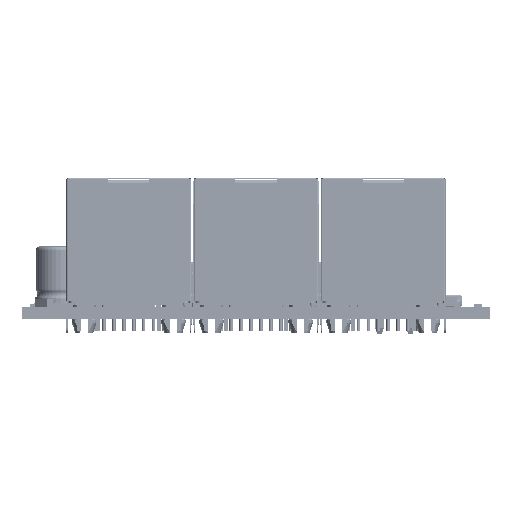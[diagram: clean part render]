
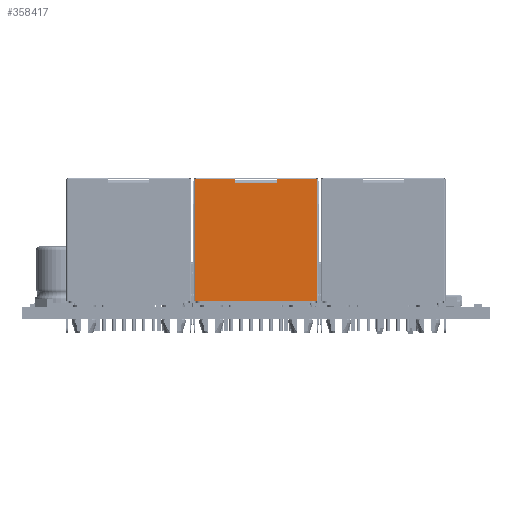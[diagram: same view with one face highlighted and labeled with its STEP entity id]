
A CAD part, front view. The second image highlights one B-rep face of the part: STEP entity #358417.
In plain terms, the highlighted planar face has unit normal (0, -1, 0) as drawn and (1, 0, 0) by its records, which use the part's own axes.
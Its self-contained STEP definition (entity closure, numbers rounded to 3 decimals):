
#354993=DIRECTION('',(0.,0.,-1.));
#354994=VECTOR('',#354993,15.6);
#354995=CARTESIAN_POINT('',(8.35,0.55,7.8));
#354996=LINE('',#354995,#354994);
#354997=DIRECTION('',(0.,-1.,0.));
#354998=VECTOR('',#354997,0.5);
#354999=CARTESIAN_POINT('',(8.35,16.15,-2.65));
#355000=LINE('',#354999,#354998);
#355140=DIRECTION('',(0.,0.,-1.));
#355141=VECTOR('',#355140,0.05);
#355142=CARTESIAN_POINT('',(8.35,16.15,-7.75));
#355143=LINE('',#355142,#355141);
#355308=DIRECTION('',(0.,-1.,0.));
#355309=VECTOR('',#355308,15.6);
#355310=CARTESIAN_POINT('',(8.35,16.15,-7.8));
#355311=LINE('',#355310,#355309);
#355342=DIRECTION('',(0.,0.,-1.));
#355343=VECTOR('',#355342,5.1);
#355344=CARTESIAN_POINT('',(8.35,16.15,-2.65));
#355345=LINE('',#355344,#355343);
#356145=DIRECTION('',(0.,0.,-1.));
#356146=VECTOR('',#356145,5.1);
#356147=CARTESIAN_POINT('',(8.35,16.15,7.75));
#356148=LINE('',#356147,#356146);
#356162=DIRECTION('',(0.,-1.,0.));
#356163=VECTOR('',#356162,0.5);
#356164=CARTESIAN_POINT('',(8.35,16.15,2.65));
#356165=LINE('',#356164,#356163);
#356211=DIRECTION('',(0.,0.,-1.));
#356212=VECTOR('',#356211,5.3);
#356213=CARTESIAN_POINT('',(8.35,15.65,2.65));
#356214=LINE('',#356213,#356212);
#356219=DIRECTION('',(0.,0.,-1.));
#356220=VECTOR('',#356219,0.05);
#356221=CARTESIAN_POINT('',(8.35,16.15,7.8));
#356222=LINE('',#356221,#356220);
#356632=DIRECTION('',(0.,1.,0.));
#356633=VECTOR('',#356632,15.6);
#356634=CARTESIAN_POINT('',(8.35,0.55,7.8));
#356635=LINE('',#356634,#356633);
#357266=CARTESIAN_POINT('',(8.35,16.15,-2.65));
#357267=CARTESIAN_POINT('',(8.35,16.15,-7.75));
#357268=VERTEX_POINT('',#357266);
#357269=VERTEX_POINT('',#357267);
#357404=CARTESIAN_POINT('',(8.35,16.15,2.65));
#357405=VERTEX_POINT('',#357404);
#357406=CARTESIAN_POINT('',(8.35,15.65,2.65));
#357407=VERTEX_POINT('',#357406);
#357516=CARTESIAN_POINT('',(8.35,15.65,-2.65));
#357517=VERTEX_POINT('',#357516);
#357522=CARTESIAN_POINT('',(8.35,0.55,7.8));
#357523=CARTESIAN_POINT('',(8.35,0.55,-7.8));
#357524=VERTEX_POINT('',#357522);
#357525=VERTEX_POINT('',#357523);
#357526=CARTESIAN_POINT('',(8.35,16.15,-7.8));
#357527=VERTEX_POINT('',#357526);
#357528=CARTESIAN_POINT('',(8.35,16.15,7.75));
#357529=VERTEX_POINT('',#357528);
#357530=CARTESIAN_POINT('',(8.35,16.15,7.8));
#357531=VERTEX_POINT('',#357530);
#358391=CARTESIAN_POINT('',(8.35,16.1,-2.65));
#358392=DIRECTION('',(1.,0.,0.));
#358393=DIRECTION('',(0.,0.,-1.));
#358394=AXIS2_PLACEMENT_3D('',#358391,#358392,#358393);
#358395=PLANE('',#358394);
#358397=ORIENTED_EDGE('',*,*,#358396,.F.);
#358399=ORIENTED_EDGE('',*,*,#358398,.T.);
#358401=ORIENTED_EDGE('',*,*,#358400,.T.);
#358403=ORIENTED_EDGE('',*,*,#358402,.T.);
#358405=ORIENTED_EDGE('',*,*,#358404,.T.);
#358407=ORIENTED_EDGE('',*,*,#358406,.T.);
#358408=ORIENTED_EDGE('',*,*,#358375,.F.);
#358410=ORIENTED_EDGE('',*,*,#358409,.T.);
#358412=ORIENTED_EDGE('',*,*,#358411,.T.);
#358414=ORIENTED_EDGE('',*,*,#358413,.T.);
#358415=EDGE_LOOP('',(#358397,#358399,#358401,#358403,#358405,#358407,#358408,
#358410,#358412,#358414));
#358416=FACE_OUTER_BOUND('',#358415,.F.);
#358375=EDGE_CURVE('',#357268,#357517,#355000,.T.);
#358396=EDGE_CURVE('',#357524,#357525,#354996,.T.);
#358398=EDGE_CURVE('',#357524,#357531,#356635,.T.);
#358400=EDGE_CURVE('',#357531,#357529,#356222,.T.);
#358402=EDGE_CURVE('',#357529,#357405,#356148,.T.);
#358404=EDGE_CURVE('',#357405,#357407,#356165,.T.);
#358406=EDGE_CURVE('',#357407,#357517,#356214,.T.);
#358409=EDGE_CURVE('',#357268,#357269,#355345,.T.);
#358411=EDGE_CURVE('',#357269,#357527,#355143,.T.);
#358413=EDGE_CURVE('',#357527,#357525,#355311,.T.);
#358417=ADVANCED_FACE('',(#358416),#358395,.T.);
